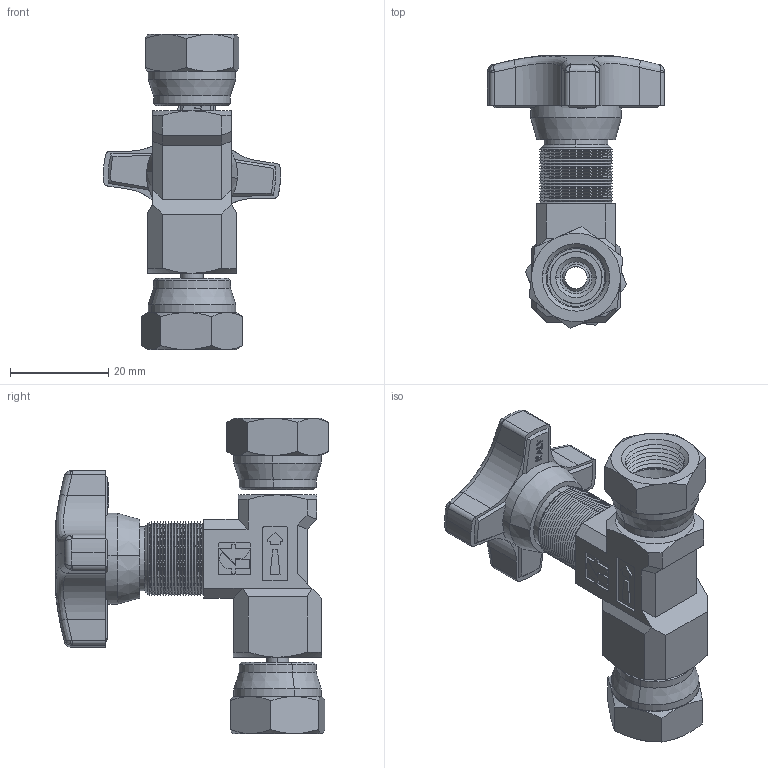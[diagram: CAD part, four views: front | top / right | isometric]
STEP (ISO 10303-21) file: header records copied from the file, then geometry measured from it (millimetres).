
FILE_DESCRIPTION (( 'STEP AP214' ), '1' );
FILE_NAME ('290-05-14.STEP', '2015-05-15T09:44:44', ( '' ), ( '' ), 'SwSTEP 2.0', 'SolidWorks 2014', '' );
FILE_SCHEMA (( 'AUTOMOTIVE_DESIGN' ));
Length unit declared in the file: millimetre
Products named in the file (1): 290-05-14
Bounding box: 35.99 x 55.4 x 64 mm (x, y, z)
Surface area: 10502.8 mm2 (no closed solid volume)
Topology: 0 solids, 21 shells, 581 faces, 1565 edges, 989 vertices
Faces by surface type: plane 272, cone 177, cylinder 67, bspline 52, torus 11, sphere 2
Entity records: 27099 total; most frequent: CARTESIAN_POINT 6560, ORIENTED_EDGE 2878, DIRECTION 2853, EDGE_CURVE 1557, VERTEX_POINT 989, AXIS2_PLACEMENT_3D 966, VECTOR 921, LINE 921
